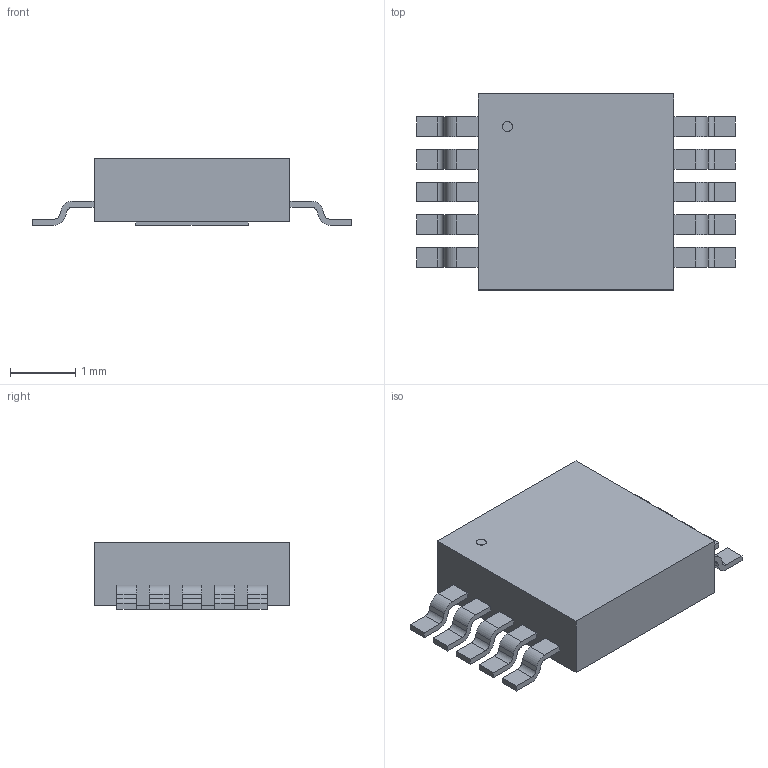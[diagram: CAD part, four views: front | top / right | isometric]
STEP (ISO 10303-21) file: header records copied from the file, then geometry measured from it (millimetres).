
FILE_DESCRIPTION(('STEP AP214'),'1');
FILE_NAME('A3909GLYTR-T_ALM','2026-09-30T06:17:29',(''),(''),'','','');
FILE_SCHEMA(('AUTOMOTIVE_DESIGN'));
Length unit declared in the file: millimetre
Products named in the file (1): product
Bounding box: 4.88 x 3 x 1.02 mm (x, y, z)
Volume: 9.2 mm3; surface area: 46 mm2
Topology: 13 solids, 13 shells, 155 faces, 387 edges, 258 vertices
Faces by surface type: plane 114, cylinder 41
Full cylindrical faces by diameter (mm): 0.15 x1
Entity records: 4557 total; most frequent: DIRECTION 782, ORIENTED_EDGE 772, CARTESIAN_POINT 457, EDGE_CURVE 386, LINE 304, VECTOR 304, VERTEX_POINT 258, AXIS2_PLACEMENT_3D 239
